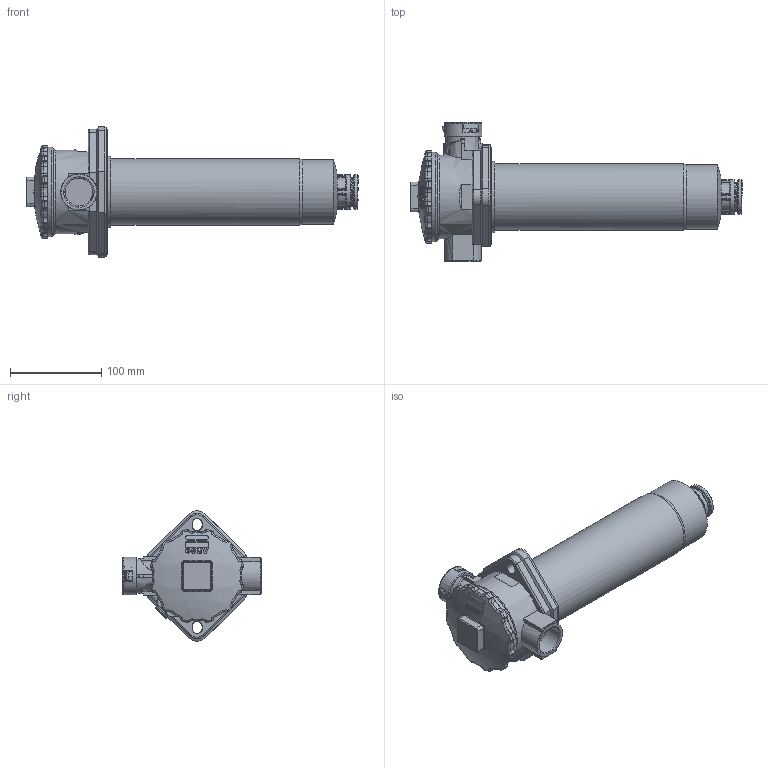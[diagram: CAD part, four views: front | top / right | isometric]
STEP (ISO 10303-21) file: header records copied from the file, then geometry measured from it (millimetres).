
FILE_DESCRIPTION((''),'2;1');
FILE_NAME('U:\Users\t.schleuter\Ruecklauffilter13322500(235312).stp','2013-04-12T12:53:31',('User'),('SDRC'),'I-DEAS Master Series 9','UNIX','Yes');
FILE_SCHEMA(('AUTOMOTIVE_DESIGN { 1 0 10303 214 1 1 1 1 }'));
Length unit declared in the file: millimetre
Products named in the file (1): 13322500(235312)
Bounding box: 363.6 x 151.5 x 142.65 mm (x, y, z)
Volume: 1686147 mm3; surface area: 146418.2 mm2
Topology: 1 solids, 4 shells, 857 faces, 2233 edges, 1371 vertices
Faces by surface type: bspline 857
Entity records: 30941 total; most frequent: CARTESIAN_POINT 18539, ORIENTED_EDGE 4344, EDGE_CURVE 2172, VERTEX_POINT 1335, B_SPLINE_CURVE_WITH_KNOTS 1192, EDGE_LOOP 897, FACE_OUTER_BOUND 857, ADVANCED_FACE 857
